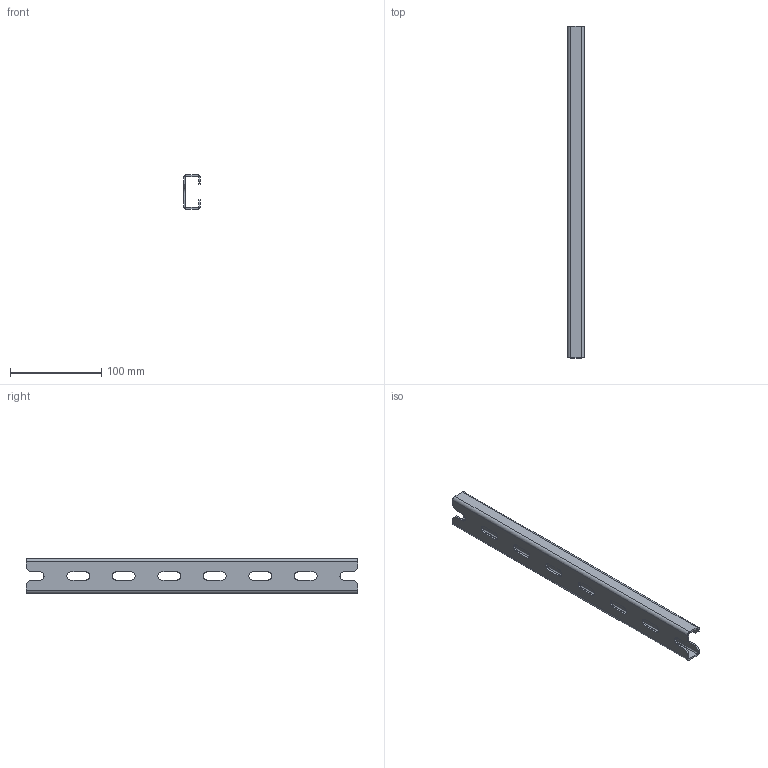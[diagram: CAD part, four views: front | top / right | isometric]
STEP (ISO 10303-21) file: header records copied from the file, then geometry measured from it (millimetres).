
FILE_DESCRIPTION (( 'STEP AP203' ), '1' );
FILE_NAME ('MG 40.04 C Òðàâåðñà ìîíòàæíàÿ.STEP', '2013-01-09T05:33:46', ( 'System' ), ( '' ), 'SwSTEP 2.0', 'SolidWorks 2012', '' );
FILE_SCHEMA (( 'CONFIG_CONTROL_DESIGN' ));
Length unit declared in the file: millimetre
Products named in the file (1): MG 40.04 C Òðàâåðñà ìîíòàæíàÿ
Bounding box: 18.5 x 364.5 x 38 mm (x, y, z)
Volume: 57727.5 mm3; surface area: 60348.6 mm2
Topology: 1 solids, 1 shells, 78 faces, 196 edges, 120 vertices
Faces by surface type: plane 56, cylinder 22
Entity records: 2389 total; most frequent: DIRECTION 398, CARTESIAN_POINT 395, ORIENTED_EDGE 392, EDGE_CURVE 196, LINE 152, VECTOR 152, AXIS2_PLACEMENT_3D 123, VERTEX_POINT 120
